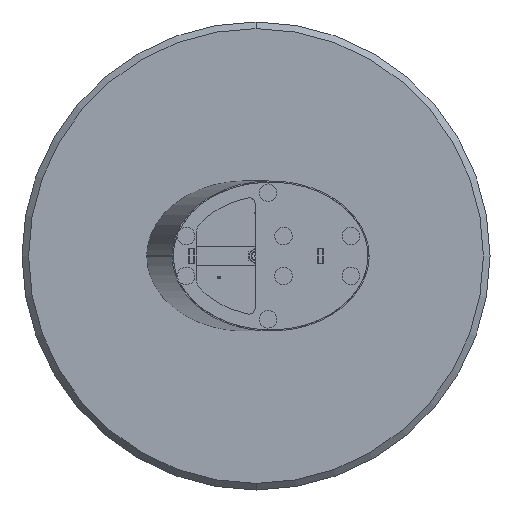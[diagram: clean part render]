
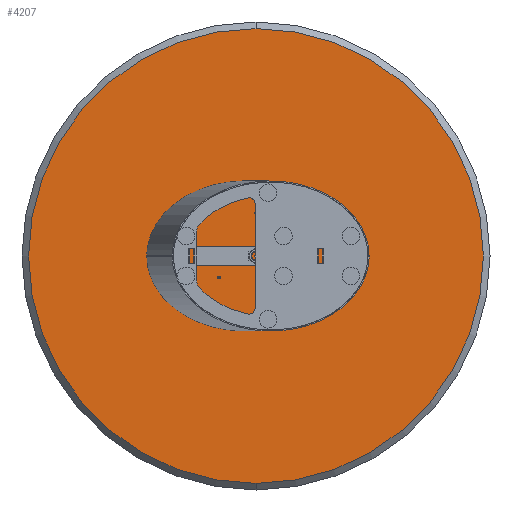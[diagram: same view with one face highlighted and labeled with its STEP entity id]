
A CAD part, front view. The second image highlights one B-rep face of the part: STEP entity #4207.
In plain terms, the highlighted planar face has unit normal (0, -1, 0).
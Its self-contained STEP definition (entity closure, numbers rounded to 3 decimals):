
#147 = AXIS2_PLACEMENT_3D ( 'NONE', #821, #2101, #7258 ) ;
#232 = VERTEX_POINT ( 'NONE', #1129 ) ;
#250 = CARTESIAN_POINT ( 'NONE',  ( 0., 0., 109.697 ) ) ;
#252 = VERTEX_POINT ( 'NONE', #492 ) ;
#354 = CARTESIAN_POINT ( 'NONE',  ( 95., 0., -58.248 ) ) ;
#355 = CIRCLE ( 'NONE', #1023, 3.4 ) ;
#377 = DIRECTION ( 'NONE',  ( 0., -1., 0. ) ) ;
#400 = EDGE_CURVE ( 'NONE', #3102, #5656, #5624, .T. ) ;
#413 = ORIENTED_EDGE ( 'NONE', *, *, #4393, .F. ) ;
#433 = CARTESIAN_POINT ( 'NONE',  ( 0., 0., 583. ) ) ;
#465 = DIRECTION ( 'NONE',  ( 0., 0., -1. ) ) ;
#492 = CARTESIAN_POINT ( 'NONE',  ( 0., 0., -3.4 ) ) ;
#530 = ORIENTED_EDGE ( 'NONE', *, *, #400, .F. ) ;
#593 = ORIENTED_EDGE ( 'NONE', *, *, #4785, .T. ) ;
#666 = CARTESIAN_POINT ( 'NONE',  ( 0., 0., 0. ) ) ;
#821 = CARTESIAN_POINT ( 'NONE',  ( 95., 0., -54.848 ) ) ;
#826 = DIRECTION ( 'NONE',  ( 0., 0., -1. ) ) ;
#1023 = AXIS2_PLACEMENT_3D ( 'NONE', #250, #3544, #4690 ) ;
#1099 = FACE_OUTER_BOUND ( 'NONE', #4756, .T. ) ;
#1129 = CARTESIAN_POINT ( 'NONE',  ( 0., 0., 3.4 ) ) ;
#1248 = DIRECTION ( 'NONE',  ( 0., -1., 0. ) ) ;
#1310 = CIRCLE ( 'NONE', #4828, 3.4 ) ;
#1423 = CIRCLE ( 'NONE', #4129, 3.4 ) ;
#1650 = ORIENTED_EDGE ( 'NONE', *, *, #6140, .F. ) ;
#1658 = VERTEX_POINT ( 'NONE', #354 ) ;
#1732 = FACE_BOUND ( 'NONE', #6553, .T. ) ;
#1751 = VERTEX_POINT ( 'NONE', #433 ) ;
#1857 = FACE_BOUND ( 'NONE', #6245, .T. ) ;
#1865 = ORIENTED_EDGE ( 'NONE', *, *, #4607, .F. ) ;
#2066 = DIRECTION ( 'NONE',  ( 0., 0., -1. ) ) ;
#2101 = DIRECTION ( 'NONE',  ( 0., -1., 0. ) ) ;
#2106 = CARTESIAN_POINT ( 'NONE',  ( -95., 0., -54.848 ) ) ;
#2258 = EDGE_CURVE ( 'NONE', #1658, #6047, #1310, .T. ) ;
#2354 = CIRCLE ( 'NONE', #5181, 3.4 ) ;
#2476 = CARTESIAN_POINT ( 'NONE',  ( -95., 0., -51.448 ) ) ;
#2869 = EDGE_CURVE ( 'NONE', #4421, #6062, #2354, .T. ) ;
#2982 = DIRECTION ( 'NONE',  ( 0., 0., -1. ) ) ;
#2992 = AXIS2_PLACEMENT_3D ( 'NONE', #6996, #5726, #2982 ) ;
#3045 = DIRECTION ( 'NONE',  ( 0., 0., -1. ) ) ;
#3058 = EDGE_CURVE ( 'NONE', #4718, #1751, #6675, .T. ) ;
#3102 = VERTEX_POINT ( 'NONE', #4138 ) ;
#3277 = ORIENTED_EDGE ( 'NONE', *, *, #4498, .F. ) ;
#3544 = DIRECTION ( 'NONE',  ( 0., -1., 0. ) ) ;
#3663 = EDGE_LOOP ( 'NONE', ( #530, #3277 ) ) ;
#3681 = PLANE ( 'NONE',  #5881 ) ;
#3734 = EDGE_LOOP ( 'NONE', ( #5276, #4788 ) ) ;
#3896 = CARTESIAN_POINT ( 'NONE',  ( 0., 0., 113.097 ) ) ;
#4052 = DIRECTION ( 'NONE',  ( 0., -1., 0. ) ) ;
#4058 = AXIS2_PLACEMENT_3D ( 'NONE', #6002, #4052, #6635 ) ;
#4129 = AXIS2_PLACEMENT_3D ( 'NONE', #666, #4521, #2066 ) ;
#4138 = CARTESIAN_POINT ( 'NONE',  ( 0., 0., 106.297 ) ) ;
#4190 = CIRCLE ( 'NONE', #6764, 583. ) ;
#4207 = ADVANCED_FACE ( 'NONE', ( #1732, #5632, #6892, #1099, #1857 ), #3681, .T. ) ;
#4384 = ORIENTED_EDGE ( 'NONE', *, *, #2869, .F. ) ;
#4393 = EDGE_CURVE ( 'NONE', #232, #252, #1423, .T. ) ;
#4421 = VERTEX_POINT ( 'NONE', #7755 ) ;
#4439 = CARTESIAN_POINT ( 'NONE',  ( 0., 0., 0. ) ) ;
#4498 = EDGE_CURVE ( 'NONE', #5656, #3102, #355, .T. ) ;
#4515 = AXIS2_PLACEMENT_3D ( 'NONE', #5451, #377, #3045 ) ;
#4521 = DIRECTION ( 'NONE',  ( 0., -1., 0. ) ) ;
#4607 = EDGE_CURVE ( 'NONE', #6062, #4421, #6356, .T. ) ;
#4685 = DIRECTION ( 'NONE',  ( 0., -1., 0. ) ) ;
#4690 = DIRECTION ( 'NONE',  ( 0., 0., -1. ) ) ;
#4718 = VERTEX_POINT ( 'NONE', #5771 ) ;
#4756 = EDGE_LOOP ( 'NONE', ( #593, #6634 ) ) ;
#4785 = EDGE_CURVE ( 'NONE', #1751, #4718, #4190, .T. ) ;
#4788 = ORIENTED_EDGE ( 'NONE', *, *, #6737, .F. ) ;
#4828 = AXIS2_PLACEMENT_3D ( 'NONE', #6592, #4685, #5235 ) ;
#5055 = DIRECTION ( 'NONE',  ( 0., 0., -1. ) ) ;
#5059 = DIRECTION ( 'NONE',  ( 0., 0., -1. ) ) ;
#5181 = AXIS2_PLACEMENT_3D ( 'NONE', #2106, #7925, #826 ) ;
#5235 = DIRECTION ( 'NONE',  ( 0., 0., -1. ) ) ;
#5276 = ORIENTED_EDGE ( 'NONE', *, *, #2258, .F. ) ;
#5402 = CARTESIAN_POINT ( 'NONE',  ( 95., 0., -51.448 ) ) ;
#5451 = CARTESIAN_POINT ( 'NONE',  ( 0., 0., 0. ) ) ;
#5624 = CIRCLE ( 'NONE', #6694, 3.4 ) ;
#5632 = FACE_BOUND ( 'NONE', #3663, .T. ) ;
#5656 = VERTEX_POINT ( 'NONE', #3896 ) ;
#5696 = CIRCLE ( 'NONE', #147, 3.4 ) ;
#5699 = DIRECTION ( 'NONE',  ( 0., -1., 0. ) ) ;
#5726 = DIRECTION ( 'NONE',  ( 0., -1., 0. ) ) ;
#5771 = CARTESIAN_POINT ( 'NONE',  ( 0., 0., -583. ) ) ;
#5881 = AXIS2_PLACEMENT_3D ( 'NONE', #4439, #6263, #465 ) ;
#6002 = CARTESIAN_POINT ( 'NONE',  ( -95., 0., -54.848 ) ) ;
#6047 = VERTEX_POINT ( 'NONE', #5402 ) ;
#6062 = VERTEX_POINT ( 'NONE', #2476 ) ;
#6140 = EDGE_CURVE ( 'NONE', #252, #232, #6770, .T. ) ;
#6245 = EDGE_LOOP ( 'NONE', ( #1650, #413 ) ) ;
#6263 = DIRECTION ( 'NONE',  ( 0., -1., 0. ) ) ;
#6333 = CARTESIAN_POINT ( 'NONE',  ( 0., 0., 109.697 ) ) ;
#6356 = CIRCLE ( 'NONE', #4058, 3.4 ) ;
#6553 = EDGE_LOOP ( 'NONE', ( #4384, #1865 ) ) ;
#6592 = CARTESIAN_POINT ( 'NONE',  ( 95., 0., -54.848 ) ) ;
#6634 = ORIENTED_EDGE ( 'NONE', *, *, #3058, .T. ) ;
#6635 = DIRECTION ( 'NONE',  ( 0., 0., -1. ) ) ;
#6675 = CIRCLE ( 'NONE', #4515, 583. ) ;
#6694 = AXIS2_PLACEMENT_3D ( 'NONE', #6333, #5699, #5059 ) ;
#6737 = EDGE_CURVE ( 'NONE', #6047, #1658, #5696, .T. ) ;
#6764 = AXIS2_PLACEMENT_3D ( 'NONE', #7004, #1248, #5055 ) ;
#6770 = CIRCLE ( 'NONE', #2992, 3.4 ) ;
#6892 = FACE_BOUND ( 'NONE', #3734, .T. ) ;
#6996 = CARTESIAN_POINT ( 'NONE',  ( 0., 0., 0. ) ) ;
#7004 = CARTESIAN_POINT ( 'NONE',  ( 0., 0., 0. ) ) ;
#7258 = DIRECTION ( 'NONE',  ( 0., 0., -1. ) ) ;
#7755 = CARTESIAN_POINT ( 'NONE',  ( -95., 0., -58.248 ) ) ;
#7925 = DIRECTION ( 'NONE',  ( 0., -1., 0. ) ) ;
